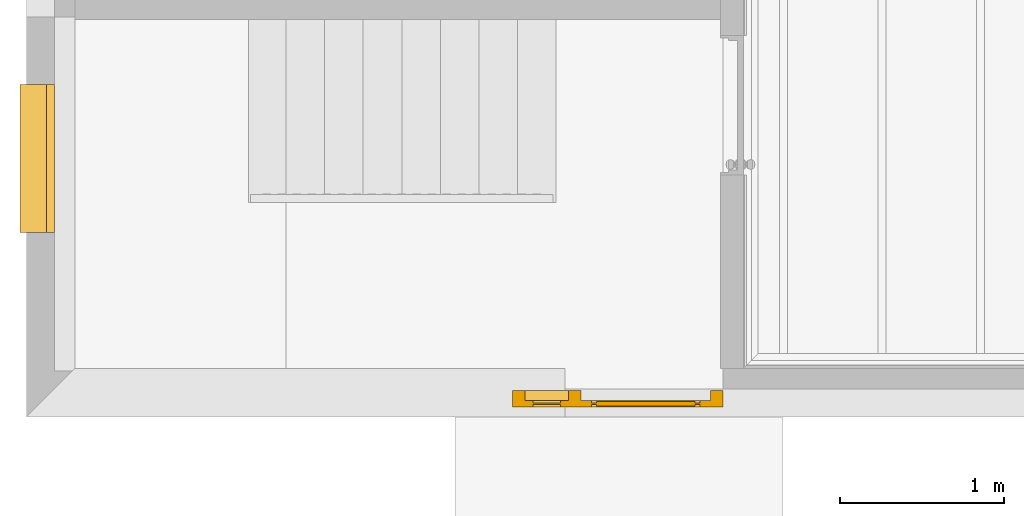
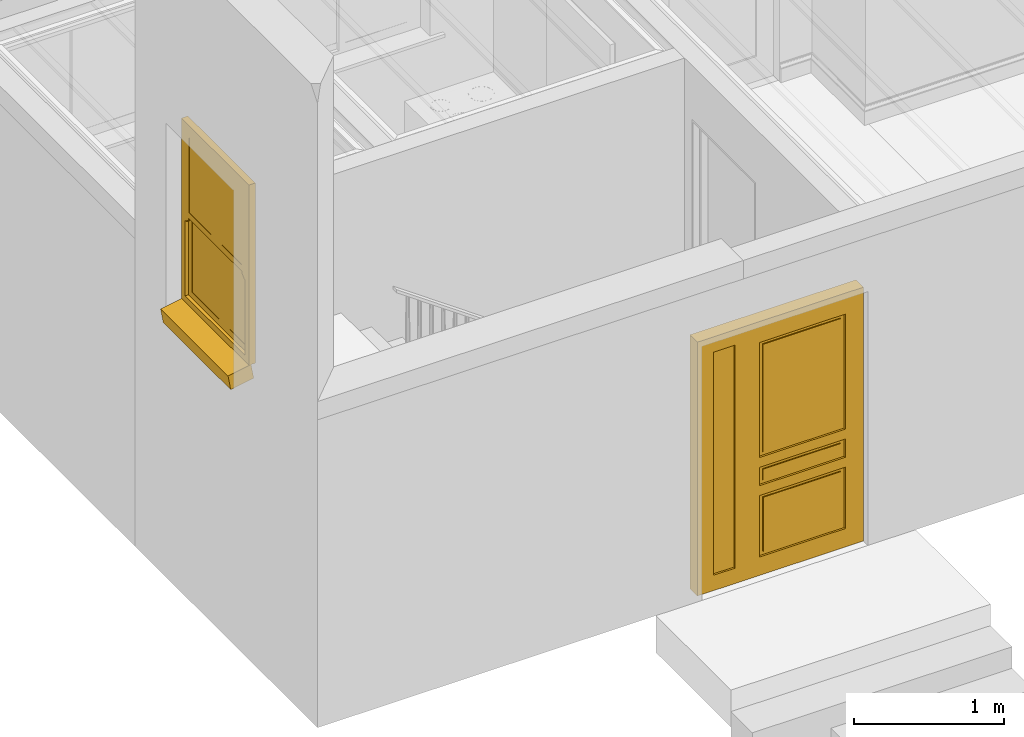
# One storey, part 6 of 15: 1 door, 1 window.
"""IFC2X3 building model written with IfcOpenShell, lengths in millimetres."""

from ifc_helpers import new_model, entity, si_unit, converted_unit, money_unit, direction, frame, origin_with_axes, place, context, subcontext, project, spatial, faceted_brep, source, transform, mapped, material, material_list, type_object, element, save


model = new_model("IFC2X3")

# Units and contexts
model_context = context("Model", 3, precision=1e-05, world=origin_with_axes(), true_north=direction((0.0, 1.0)))
body_context = subcontext(model_context, "Body", "Model", "MODEL_VIEW")
ifc_project = project(units=[si_unit("LENGTHUNIT", "METRE", prefix="MILLI"), si_unit("AREAUNIT", "SQUARE_METRE"), si_unit("VOLUMEUNIT", "CUBIC_METRE"), converted_unit("PLANEANGLEUNIT", "DEGREE", entity("IfcPlaneAngleMeasure", 0.0174532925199), si_unit("PLANEANGLEUNIT", "RADIAN"), dimensions=[0, 0, 0, 0, 0, 0, 0]), si_unit("SOLIDANGLEUNIT", "STERADIAN"), money_unit("AUD"), si_unit("TIMEUNIT", "SECOND"), si_unit("MASSUNIT", "GRAM"), si_unit("THERMODYNAMICTEMPERATUREUNIT", "DEGREE_CELSIUS"), si_unit("LUMINOUSINTENSITYUNIT", "LUMEN")], contexts=[model_context])

# Site, building, storey
site_placement = place(None, origin_with_axes())
site = spatial("IfcSite", under=ifc_project, at=site_placement, Name="Lot 1. East Hills", CompositionType="ELEMENT")
building_placement = place(site_placement, origin_with_axes())
building = spatial("IfcBuilding", under=site, at=building_placement, Name="Proposed Units 7 & 8", CompositionType="ELEMENT")
storey_placement = place(building_placement, frame((0.0, 0.0, 3202.0), z_axis=(0.0, 0.0, 1.0), x_axis=(1.0, 0.0, 0.0)))
storey = spatial("IfcBuildingStorey", under=building, at=storey_placement, Name="Ground", CompositionType="ELEMENT", Elevation=3202.0)

# Window
ifc_material_1 = material(Name="Empty Fill")
ifc_material_2 = material(Name="air space")
ifc_material_list = material_list([ifc_material_1, ifc_material_2, ifc_material_1, ifc_material_1, ifc_material_1, ifc_material_1, ifc_material_1, ifc_material_1, ifc_material_1, ifc_material_1])
window_style = type_object("IfcWindowStyle", Name="W Single Hung 1 11", ConstructionType="NOTDEFINED", OperationType="SINGLE_PANEL", ParameterTakesPrecedence=False, Sizeable=False)
window_placement = place(storey_placement, frame((0.0, 1121.82170697, 2228.5), z_axis=(0.0, 0.0, 1.0), x_axis=(0.0, 1.0, 0.0)))
element("IfcWindow", 1, at=window_placement, inside=storey, type_object=window_style, material=ifc_material_list, Name="W008 W Single Hung 1 11 0.9 x 1.467 Window", OverallHeight=1467.0, OverallWidth=900.0, context=body_context, shape_type="Brep", body=[
    faceted_brep([(900.0, -136.666666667, 0.0), (900.0, 40.83778132, -31.2988233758), (0.0, 40.83778132, -31.2988233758), (0.0, -136.666666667, 0.0), (900.0, -157.504447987, -118.176930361), (900.0, 20.0, -149.475753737), (0.0, 20.0, -149.475753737), (0.0, -157.504447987, -118.176930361)], [[[0, 1, 2, 3]], [[0, 4, 5, 1]], [[1, 5, 6, 2]], [[3, 2, 6, 7]], [[4, 0, 3, 7]], [[5, 4, 7, 6]]]),
    faceted_brep([(850.0, -120.0, 50.0), (850.0, -170.0, 50.0), (850.0, -170.0, 1417.0), (850.0, -120.0, 1417.0), (900.0, -120.0, 50.0), (900.0, -170.0, 50.0), (900.0, -170.0, 1417.0), (900.0, -120.0, 1417.0)], [[[0, 1, 2, 3]], [[4, 5, 1, 0]], [[1, 5, 6, 2]], [[3, 2, 6, 7]], [[0, 3, 7, 4]], [[7, 6, 5, 4]]]),
    faceted_brep([(0.0, -120.0, 50.0), (0.0, -170.0, 50.0), (0.0, -170.0, 1417.0), (0.0, -120.0, 1417.0), (50.0, -120.0, 50.0), (50.0, -170.0, 50.0), (50.0, -170.0, 1417.0), (50.0, -120.0, 1417.0)], [[[0, 1, 2, 3]], [[4, 5, 1, 0]], [[1, 5, 6, 2]], [[3, 2, 6, 7]], [[0, 3, 7, 4]], [[7, 6, 5, 4]]]),
    faceted_brep([(900.0, -120.0, 0.0), (900.0, -170.0, 0.0), (0.0, -170.0, 0.0), (0.0, -120.0, 0.0), (900.0, -120.0, 50.0), (900.0, -170.0, 50.0), (850.0, -170.0, 50.0), (50.0, -170.0, 50.0), (0.0, -170.0, 50.0), (0.0, -120.0, 50.0), (50.0, -120.0, 50.0), (850.0, -120.0, 50.0)], [[[0, 1, 2, 3]], [[4, 5, 1, 0]], [[1, 5, 6, 7, 8, 2]], [[3, 2, 8, 9]], [[0, 3, 9, 10, 11, 4]], [[11, 6, 5, 4]], [[10, 7, 6, 11]], [[9, 8, 7, 10]]]),
    faceted_brep([(900.0, -120.0, 1417.0), (900.0, -170.0, 1417.0), (850.0, -170.0, 1417.0), (850.0, -120.0, 1417.0), (900.0, -120.0, 1467.0), (900.0, -170.0, 1467.0), (0.0, -170.0, 1467.0), (0.0, -170.0, 1417.0), (50.0, -170.0, 1417.0), (50.0, -120.0, 1417.0), (0.0, -120.0, 1417.0), (0.0, -120.0, 1467.0)], [[[0, 1, 2, 3]], [[4, 5, 1, 0]], [[1, 5, 6, 7, 8, 2]], [[3, 2, 8, 9]], [[0, 3, 9, 10, 11, 4]], [[11, 6, 5, 4]], [[10, 7, 6, 11]], [[9, 8, 7, 10]]]),
    faceted_brep([(800.0, -145.0, 100.0), (800.0, -170.0, 100.0), (800.0, -170.0, 708.5), (800.0, -145.0, 708.5), (850.0, -145.0, 100.0), (850.0, -170.0, 100.0), (850.0, -170.0, 708.5), (850.0, -145.0, 708.5)], [[[0, 1, 2, 3]], [[4, 5, 1, 0]], [[1, 5, 6, 2]], [[3, 2, 6, 7]], [[0, 3, 7, 4]], [[7, 6, 5, 4]]]),
    faceted_brep([(50.0, -145.0, 100.0), (50.0, -170.0, 100.0), (50.0, -170.0, 708.5), (50.0, -145.0, 708.5), (100.0, -145.0, 100.0), (100.0, -170.0, 100.0), (100.0, -170.0, 708.5), (100.0, -145.0, 708.5)], [[[0, 1, 2, 3]], [[4, 5, 1, 0]], [[1, 5, 6, 2]], [[3, 2, 6, 7]], [[0, 3, 7, 4]], [[7, 6, 5, 4]]]),
    faceted_brep([(50.0, -145.0, 50.0), (50.0, -170.0, 50.0), (50.0, -170.0, 100.0), (50.0, -145.0, 100.0), (850.0, -145.0, 50.0), (850.0, -170.0, 50.0), (850.0, -170.0, 100.0), (800.0, -170.0, 100.0), (100.0, -170.0, 100.0), (100.0, -145.0, 100.0), (800.0, -145.0, 100.0), (850.0, -145.0, 100.0)], [[[0, 1, 2, 3]], [[4, 5, 1, 0]], [[1, 5, 6, 7, 8, 2]], [[3, 2, 8, 9]], [[0, 3, 9, 10, 11, 4]], [[11, 6, 5, 4]], [[10, 7, 6, 11]], [[9, 8, 7, 10]]]),
    faceted_brep([(850.0, -145.0, 758.5), (850.0, -170.0, 758.5), (850.0, -170.0, 708.5), (850.0, -145.0, 708.5), (50.0, -145.0, 758.5), (50.0, -170.0, 758.5), (50.0, -170.0, 708.5), (100.0, -170.0, 708.5), (800.0, -170.0, 708.5), (800.0, -145.0, 708.5), (100.0, -145.0, 708.5), (50.0, -145.0, 708.5)], [[[0, 1, 2, 3]], [[4, 5, 1, 0]], [[1, 5, 6, 7, 8, 2]], [[3, 2, 8, 9]], [[0, 3, 9, 10, 11, 4]], [[11, 6, 5, 4]], [[10, 7, 6, 11]], [[9, 8, 7, 10]]]),
    faceted_brep([(800.0, -147.5, 100.0), (800.0, -167.5, 100.0), (100.0, -167.5, 100.0), (100.0, -147.5, 100.0), (800.0, -147.5, 708.5), (800.0, -167.5, 708.5), (100.0, -167.5, 708.5), (100.0, -147.5, 708.5)], [[[0, 1, 2, 3]], [[4, 5, 1, 0]], [[1, 5, 6, 2]], [[3, 2, 6, 7]], [[0, 3, 7, 4]], [[7, 6, 5, 4]]]),
    faceted_brep([(800.0, -122.5, 758.5), (800.0, -142.5, 758.5), (100.0, -142.5, 758.5), (100.0, -122.5, 758.5), (800.0, -122.5, 1367.0), (800.0, -142.5, 1367.0), (100.0, -142.5, 1367.0), (100.0, -122.5, 1367.0)], [[[0, 1, 2, 3]], [[4, 5, 1, 0]], [[1, 5, 6, 2]], [[3, 2, 6, 7]], [[0, 3, 7, 4]], [[7, 6, 5, 4]]]),
    faceted_brep([(800.0, -120.0, 758.5), (800.0, -145.0, 758.5), (800.0, -145.0, 1367.0), (800.0, -120.0, 1367.0), (850.0, -120.0, 758.5), (850.0, -145.0, 758.5), (850.0, -145.0, 1367.0), (850.0, -120.0, 1367.0)], [[[0, 1, 2, 3]], [[4, 5, 1, 0]], [[1, 5, 6, 2]], [[3, 2, 6, 7]], [[0, 3, 7, 4]], [[7, 6, 5, 4]]]),
    faceted_brep([(50.0, -120.0, 758.5), (50.0, -145.0, 758.5), (50.0, -145.0, 1367.0), (50.0, -120.0, 1367.0), (100.0, -120.0, 758.5), (100.0, -145.0, 758.5), (100.0, -145.0, 1367.0), (100.0, -120.0, 1367.0)], [[[0, 1, 2, 3]], [[4, 5, 1, 0]], [[1, 5, 6, 2]], [[3, 2, 6, 7]], [[0, 3, 7, 4]], [[7, 6, 5, 4]]]),
    faceted_brep([(850.0, -120.0, 708.5), (850.0, -145.0, 708.5), (850.0, -145.0, 663.5), (850.0, -120.0, 663.5), (850.0, -120.0, 758.5), (850.0, -145.0, 758.5), (800.0, -145.0, 758.5), (100.0, -145.0, 758.5), (50.0, -145.0, 758.5), (50.0, -145.0, 708.5), (50.0, -145.0, 663.5), (66.6666666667, -145.0, 663.5), (66.6666666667, -145.0, 671.833333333), (91.6666666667, -145.0, 691.833333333), (91.6666666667, -145.0, 708.5), (808.333333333, -145.0, 708.5), (808.333333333, -145.0, 691.833333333), (833.333333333, -145.0, 671.833333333), (833.333333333, -145.0, 663.5), (833.333333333, -120.0, 663.5), (833.333333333, -120.0, 671.833333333), (808.333333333, -120.0, 691.833333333), (808.333333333, -120.0, 708.5), (91.6666666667, -120.0, 708.5), (91.6666666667, -120.0, 691.833333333), (66.6666666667, -120.0, 671.833333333), (66.6666666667, -120.0, 663.5), (50.0, -120.0, 663.5), (50.0, -120.0, 708.5), (50.0, -120.0, 758.5), (100.0, -120.0, 758.5), (800.0, -120.0, 758.5)], [[[0, 1, 2, 3]], [[4, 5, 1, 0]], [[1, 5, 6, 7, 8, 9, 10, 11, 12, 13, 14, 15, 16, 17, 18, 2]], [[3, 2, 18, 19]], [[0, 3, 19, 20, 21, 22, 23, 24, 25, 26, 27, 28, 29, 30, 31, 4]], [[31, 6, 5, 4]], [[30, 7, 6, 31]], [[29, 8, 7, 30]], [[28, 9, 8, 29]], [[27, 10, 9, 28]], [[26, 11, 10, 27]], [[25, 12, 11, 26]], [[24, 13, 12, 25]], [[23, 14, 13, 24]], [[22, 15, 14, 23]], [[21, 16, 15, 22]], [[20, 17, 16, 21]], [[19, 18, 17, 20]]]),
    faceted_brep([(850.0, -120.0, 1417.0), (850.0, -145.0, 1417.0), (850.0, -145.0, 1367.0), (850.0, -120.0, 1367.0), (50.0, -120.0, 1417.0), (50.0, -145.0, 1417.0), (50.0, -145.0, 1367.0), (100.0, -145.0, 1367.0), (800.0, -145.0, 1367.0), (800.0, -120.0, 1367.0), (100.0, -120.0, 1367.0), (50.0, -120.0, 1367.0)], [[[0, 1, 2, 3]], [[4, 5, 1, 0]], [[1, 5, 6, 7, 8, 2]], [[3, 2, 8, 9]], [[0, 3, 9, 10, 11, 4]], [[11, 6, 5, 4]], [[10, 7, 6, 11]], [[9, 8, 7, 10]]]),
])

# Door
door_style = type_object("IfcDoorStyle", Name="D1 Entrance side1 12", ConstructionType="NOTDEFINED", OperationType="SINGLE_SWING_LEFT", ParameterTakesPrecedence=False, Sizeable=False)
shared_shape = source(origin_with_axes(), body_context, "Body", "Brep", [
    faceted_brep([(640.0, 0.0, 0.0), (640.0, -100.0, 0.0), (565.0, -100.0, 0.0), (565.0, 0.0, 0.0), (640.0, 0.0, 1992.0), (640.0, -100.0, 1992.0), (565.0, -100.0, 1992.0), (565.0, -100.0, 75.0), (565.0, 0.0, 75.0), (565.0, 0.0, 1992.0)], [[[0, 1, 2, 3]], [[4, 5, 1, 0]], [[1, 5, 6, 7, 2]], [[3, 2, 7, 8]], [[0, 3, 8, 9, 4]], [[9, 6, 5, 4]], [[8, 7, 6, 9]]]),
    faceted_brep([(-580.0, -40.0, 1992.0), (-580.0, 0.0, 1992.0), (-640.0, 0.0, 1992.0), (-640.0, -100.0, 1992.0), (-565.0, -100.0, 1992.0), (-565.0, -40.0, 1992.0), (-580.0, -40.0, 0.0), (-580.0, 0.0, 0.0), (-640.0, 0.0, 0.0), (-640.0, -100.0, 0.0), (-565.0, -100.0, 0.0), (-565.0, -40.0, 0.0)], [[[0, 1, 2, 3, 4, 5]], [[0, 6, 7, 1]], [[7, 8, 2, 1]], [[9, 3, 2, 8]], [[10, 4, 3, 9]], [[5, 4, 10, 11]], [[5, 11, 6, 0]], [[6, 11, 10, 9, 8, 7]]]),
    faceted_brep([(225.0, -40.0, 75.0), (225.0, -100.0, 75.0), (225.0, -100.0, 1992.0), (225.0, -40.0, 1992.0), (240.0, -40.0, 60.0), (240.0, 0.0, 60.0), (300.0, 0.0, 0.0), (300.0, -100.0, 0.0), (300.0, -100.0, 1992.0), (240.0, -40.0, 1992.0), (300.0, 0.0, 1992.0), (240.0, 0.0, 1992.0)], [[[0, 1, 2, 3]], [[4, 5, 6, 7, 1, 0]], [[1, 7, 8, 2]], [[9, 3, 2, 8, 10, 11]], [[9, 4, 0, 3]], [[11, 5, 4, 9]], [[11, 10, 6, 5]], [[8, 7, 6, 10]]]),
    faceted_brep([(225.0, -40.0, 0.0), (225.0, -100.0, 0.0), (225.0, -100.0, 75.0), (225.0, -40.0, 75.0), (240.0, -40.0, 0.0), (240.0, 0.0, 0.0), (565.0, 0.0, 0.0), (565.0, -100.0, 0.0), (565.0, -100.0, 75.0), (300.0, -100.0, 75.0), (240.0, -40.0, 75.0), (300.0, 0.0, 75.0), (240.0, 0.0, 75.0), (565.0, 0.0, 75.0)], [[[0, 1, 2, 3]], [[4, 5, 6, 7, 1, 0]], [[2, 1, 7, 8, 9]], [[10, 3, 2, 9, 11, 12]], [[10, 4, 0, 3]], [[12, 5, 4, 10]], [[12, 11, 13, 6, 5]], [[8, 7, 6, 13]], [[9, 8, 13, 11]]]),
    faceted_brep([(240.0, 0.0, 2007.0), (-580.0, 0.0, 2007.0), (-580.0, 0.0, 1992.0), (-640.0, 0.0, 1992.0), (-640.0, 0.0, 2067.0), (640.0, 0.0, 2067.0), (640.0, 0.0, 1992.0), (565.0, 0.0, 1992.0), (300.0, 0.0, 1992.0), (240.0, 0.0, 1992.0), (240.0, -40.0, 2007.0), (-580.0, -40.0, 2007.0), (-580.0, -40.0, 1992.0), (-565.0, -40.0, 1992.0), (-565.0, -100.0, 1992.0), (-640.0, -100.0, 1992.0), (-640.0, -100.0, 2067.0), (640.0, -100.0, 2067.0), (640.0, -100.0, 1992.0), (565.0, -100.0, 1992.0), (300.0, -100.0, 1992.0), (240.0, -40.0, 1992.0), (225.0, -100.0, 1992.0)], [[[0, 1, 2, 3, 4, 5, 6, 7, 8, 9]], [[0, 10, 11, 1]], [[1, 11, 12, 2]], [[12, 13, 14, 15, 3, 2]], [[15, 16, 4, 3]], [[16, 17, 5, 4]], [[17, 18, 6, 5]], [[18, 19, 7, 6]], [[19, 20, 8, 7]], [[21, 9, 8, 20, 22, 14, 13]], [[9, 21, 10, 0]], [[12, 11, 10, 21, 13]], [[16, 15, 14, 22, 20, 19, 18, 17]]]),
    faceted_brep([(-580.0, 0.0, 150.0), (-500.0, 0.0, 150.0), (-500.0, -40.0, 150.0), (-580.0, -40.0, 150.0), (-580.0, 0.0, 1897.0), (-500.0, 0.0, 1897.0), (-500.0, 0.0, 960.0), (-500.0, 0.0, 880.0), (-500.0, 0.0, 730.0), (-500.0, 0.0, 650.0), (-500.0, -40.0, 650.0), (-500.0, -40.0, 730.0), (-500.0, -40.0, 880.0), (-500.0, -40.0, 960.0), (-500.0, -40.0, 1897.0), (-580.0, -40.0, 1897.0)], [[[0, 1, 2, 3]], [[0, 4, 5, 6, 7, 8, 9, 1]], [[1, 9, 10, 2]], [[3, 2, 10, 11, 12, 13, 14, 15]], [[4, 0, 3, 15]], [[5, 4, 15, 14]], [[6, 5, 14, 13]], [[7, 6, 13, 12]], [[8, 7, 12, 11]], [[9, 8, 11, 10]]]),
    faceted_brep([(240.0, 0.0, 150.0), (240.0, 0.0, 1897.0), (240.0, -40.0, 1897.0), (240.0, -40.0, 150.0), (160.0, 0.0, 150.0), (160.0, 0.0, 650.0), (160.0, 0.0, 730.0), (160.0, 0.0, 880.0), (160.0, 0.0, 960.0), (160.0, 0.0, 1897.0), (160.0, -40.0, 1897.0), (160.0, -40.0, 960.0), (160.0, -40.0, 880.0), (160.0, -40.0, 730.0), (160.0, -40.0, 650.0), (160.0, -40.0, 150.0)], [[[0, 1, 2, 3]], [[0, 4, 5, 6, 7, 8, 9, 1]], [[1, 9, 10, 2]], [[3, 2, 10, 11, 12, 13, 14, 15]], [[4, 0, 3, 15]], [[5, 4, 15, 14]], [[6, 5, 14, 13]], [[7, 6, 13, 12]], [[8, 7, 12, 11]], [[9, 8, 11, 10]]]),
    faceted_brep([(-580.0, 0.0, 0.0), (240.0, 0.0, 0.0), (240.0, -40.0, 0.0), (-580.0, -40.0, 0.0), (-580.0, 0.0, 150.0), (-500.0, 0.0, 150.0), (160.0, 0.0, 150.0), (240.0, 0.0, 150.0), (240.0, -40.0, 150.0), (160.0, -40.0, 150.0), (-500.0, -40.0, 150.0), (-580.0, -40.0, 150.0)], [[[0, 1, 2, 3]], [[0, 4, 5, 6, 7, 1]], [[1, 7, 8, 2]], [[3, 2, 8, 9, 10, 11]], [[4, 0, 3, 11]], [[5, 4, 11, 10]], [[6, 5, 10, 9]], [[7, 6, 9, 8]]]),
    faceted_brep([(-580.0, 0.0, 2007.0), (-580.0, 0.0, 1897.0), (-580.0, -40.0, 1897.0), (-580.0, -40.0, 2007.0), (240.0, 0.0, 2007.0), (240.0, 0.0, 1897.0), (160.0, 0.0, 1897.0), (-500.0, 0.0, 1897.0), (-500.0, -40.0, 1897.0), (160.0, -40.0, 1897.0), (240.0, -40.0, 1897.0), (240.0, -40.0, 2007.0)], [[[0, 1, 2, 3]], [[0, 4, 5, 6, 7, 1]], [[1, 7, 8, 2]], [[3, 2, 8, 9, 10, 11]], [[4, 0, 3, 11]], [[5, 4, 11, 10]], [[6, 5, 10, 9]], [[7, 6, 9, 8]]]),
    faceted_brep([(-500.0, 0.0, 650.0), (160.0, 0.0, 650.0), (160.0, -40.0, 650.0), (-500.0, -40.0, 650.0), (-500.0, 0.0, 730.0), (160.0, 0.0, 730.0), (160.0, -40.0, 730.0), (-500.0, -40.0, 730.0)], [[[0, 1, 2, 3]], [[0, 4, 5, 1]], [[1, 5, 6, 2]], [[3, 2, 6, 7]], [[4, 0, 3, 7]], [[5, 4, 7, 6]]]),
    faceted_brep([(-500.0, 0.0, 880.0), (160.0, 0.0, 880.0), (160.0, -40.0, 880.0), (-500.0, -40.0, 880.0), (-500.0, 0.0, 960.0), (160.0, 0.0, 960.0), (160.0, -40.0, 960.0), (-500.0, -40.0, 960.0)], [[[0, 1, 2, 3]], [[0, 4, 5, 1]], [[1, 5, 6, 2]], [[3, 2, 6, 7]], [[4, 0, 3, 7]], [[5, 4, 7, 6]]]),
    faceted_brep([(-500.0, -15.0, 150.0), (160.0, -15.0, 150.0), (160.0, -25.0, 150.0), (-500.0, -25.0, 150.0), (-500.0, -15.0, 650.0), (160.0, -15.0, 650.0), (160.0, -25.0, 650.0), (-500.0, -25.0, 650.0)], [[[0, 1, 2, 3]], [[0, 4, 5, 1]], [[1, 5, 6, 2]], [[3, 2, 6, 7]], [[4, 0, 3, 7]], [[5, 4, 7, 6]]]),
    faceted_brep([(-500.0, -15.0, 730.0), (160.0, -15.0, 730.0), (160.0, -25.0, 730.0), (-500.0, -25.0, 730.0), (-500.0, -15.0, 880.0), (160.0, -15.0, 880.0), (160.0, -25.0, 880.0), (-500.0, -25.0, 880.0)], [[[0, 1, 2, 3]], [[0, 4, 5, 1]], [[1, 5, 6, 2]], [[3, 2, 6, 7]], [[4, 0, 3, 7]], [[5, 4, 7, 6]]]),
    faceted_brep([(-500.0, -15.0, 960.0), (160.0, -15.0, 960.0), (160.0, -25.0, 960.0), (-500.0, -25.0, 960.0), (-500.0, -15.0, 1897.0), (160.0, -15.0, 1897.0), (160.0, -25.0, 1897.0), (-500.0, -25.0, 1897.0)], [[[0, 1, 2, 3]], [[0, 4, 5, 1]], [[1, 5, 6, 2]], [[3, 2, 6, 7]], [[4, 0, 3, 7]], [[5, 4, 7, 6]]]),
    faceted_brep([(-470.0, -7.0, 180.0), (127.0, -7.0, 180.0), (127.0, -15.0, 180.0), (-470.0, -15.0, 180.0), (-470.0, -7.0, 620.0), (127.0, -7.0, 620.0), (127.0, -15.0, 620.0), (-470.0, -15.0, 620.0)], [[[0, 1, 2, 3]], [[0, 4, 5, 1]], [[1, 5, 6, 2]], [[3, 2, 6, 7]], [[4, 0, 3, 7]], [[5, 4, 7, 6]]]),
    faceted_brep([(-470.0, -7.0, 760.0), (130.0, -7.0, 760.0), (130.0, -15.0, 760.0), (-470.0, -15.0, 760.0), (-470.0, -7.0, 850.0), (130.0, -7.0, 850.0), (130.0, -15.0, 850.0), (-470.0, -15.0, 850.0)], [[[0, 1, 2, 3]], [[0, 4, 5, 1]], [[1, 5, 6, 2]], [[3, 2, 6, 7]], [[4, 0, 3, 7]], [[5, 4, 7, 6]]]),
    faceted_brep([(-470.0, -7.0, 990.0), (130.0, -7.0, 990.0), (130.0, -15.0, 990.0), (-470.0, -15.0, 990.0), (-470.0, -7.0, 1867.0), (130.0, -7.0, 1867.0), (130.0, -15.0, 1867.0), (-470.0, -15.0, 1867.0)], [[[0, 1, 2, 3]], [[0, 4, 5, 1]], [[1, 5, 6, 2]], [[3, 2, 6, 7]], [[4, 0, 3, 7]], [[5, 4, 7, 6]]]),
    faceted_brep([(-470.0, -25.0, 180.0), (127.0, -25.0, 180.0), (127.0, -33.0, 180.0), (-470.0, -33.0, 180.0), (-470.0, -25.0, 620.0), (127.0, -25.0, 620.0), (127.0, -33.0, 620.0), (-470.0, -33.0, 620.0)], [[[0, 1, 2, 3]], [[0, 4, 5, 1]], [[1, 5, 6, 2]], [[3, 2, 6, 7]], [[4, 0, 3, 7]], [[5, 4, 7, 6]]]),
    faceted_brep([(-470.0, -25.0, 760.0), (130.0, -25.0, 760.0), (130.0, -33.0, 760.0), (-470.0, -33.0, 760.0), (-470.0, -25.0, 850.0), (130.0, -25.0, 850.0), (130.0, -33.0, 850.0), (-470.0, -33.0, 850.0)], [[[0, 1, 2, 3]], [[0, 4, 5, 1]], [[1, 5, 6, 2]], [[3, 2, 6, 7]], [[4, 0, 3, 7]], [[5, 4, 7, 6]]]),
    faceted_brep([(-470.0, -25.0, 990.0), (130.0, -25.0, 990.0), (130.0, -33.0, 990.0), (-470.0, -33.0, 990.0), (-470.0, -25.0, 1867.0), (130.0, -25.0, 1867.0), (130.0, -33.0, 1867.0), (-470.0, -33.0, 1867.0)], [[[0, 1, 2, 3]], [[0, 4, 5, 1]], [[1, 5, 6, 2]], [[3, 2, 6, 7]], [[4, 0, 3, 7]], [[5, 4, 7, 6]]]),
    faceted_brep([(565.0, 0.0, 125.0), (565.0, -40.0, 125.0), (515.0, -40.0, 125.0), (515.0, 0.0, 125.0), (565.0, 0.0, 1942.0), (565.0, -40.0, 1942.0), (515.0, -40.0, 1942.0), (515.0, 0.0, 1942.0)], [[[0, 1, 2, 3]], [[4, 5, 1, 0]], [[1, 5, 6, 2]], [[3, 2, 6, 7]], [[0, 3, 7, 4]], [[7, 6, 5, 4]]]),
    faceted_brep([(300.0, 0.0, 125.0), (300.0, -40.0, 125.0), (300.0, -40.0, 1942.0), (300.0, 0.0, 1942.0), (350.0, 0.0, 125.0), (350.0, -40.0, 125.0), (350.0, -40.0, 1942.0), (350.0, 0.0, 1942.0)], [[[0, 1, 2, 3]], [[4, 5, 1, 0]], [[1, 5, 6, 2]], [[3, 2, 6, 7]], [[0, 3, 7, 4]], [[7, 6, 5, 4]]]),
    faceted_brep([(565.0, 0.0, 75.0), (565.0, -40.0, 75.0), (300.0, -40.0, 75.0), (300.0, 0.0, 75.0), (565.0, 0.0, 125.0), (565.0, -40.0, 125.0), (515.0, -40.0, 125.0), (350.0, -40.0, 125.0), (300.0, -40.0, 125.0), (300.0, 0.0, 125.0), (350.0, 0.0, 125.0), (515.0, 0.0, 125.0)], [[[0, 1, 2, 3]], [[4, 5, 1, 0]], [[1, 5, 6, 7, 8, 2]], [[3, 2, 8, 9]], [[0, 3, 9, 10, 11, 4]], [[11, 6, 5, 4]], [[10, 7, 6, 11]], [[9, 8, 7, 10]]]),
    faceted_brep([(565.0, 0.0, 1992.0), (565.0, -40.0, 1992.0), (565.0, -40.0, 1942.0), (565.0, 0.0, 1942.0), (300.0, 0.0, 1992.0), (300.0, -40.0, 1992.0), (300.0, -40.0, 1942.0), (350.0, -40.0, 1942.0), (515.0, -40.0, 1942.0), (515.0, 0.0, 1942.0), (350.0, 0.0, 1942.0), (300.0, 0.0, 1942.0)], [[[0, 1, 2, 3]], [[4, 5, 1, 0]], [[1, 5, 6, 7, 8, 2]], [[3, 2, 8, 9]], [[0, 3, 9, 10, 11, 4]], [[11, 6, 5, 4]], [[10, 7, 6, 11]], [[9, 8, 7, 10]]]),
    faceted_brep([(515.0, -15.0, 125.0), (515.0, -25.0, 125.0), (350.0, -25.0, 125.0), (350.0, -15.0, 125.0), (515.0, -15.0, 1942.0), (515.0, -25.0, 1942.0), (350.0, -25.0, 1942.0), (350.0, -15.0, 1942.0)], [[[0, 1, 2, 3]], [[4, 5, 1, 0]], [[1, 5, 6, 2]], [[3, 2, 6, 7]], [[0, 3, 7, 4]], [[7, 6, 5, 4]]]),
])
door_placement = place(storey_placement, frame((4239.99999933, -2.0, 0.0), z_axis=(0.0, 0.0, 1.0), x_axis=(-1.0, 0.0, 0.0)))
element("IfcDoor", 2, at=door_placement, inside=storey, type_object=door_style, material=ifc_material_list, Name="1 D1 Entrance side1 12 1.28 x 2.067 x 1 Door", OverallHeight=2067.0, OverallWidth=1280.0, context=body_context, shape_type="MappedRepresentation", body=[
    mapped(shared_shape, transform((640.0, -59.9999988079, 0.0))),
])

save(model, "model.ifc")
